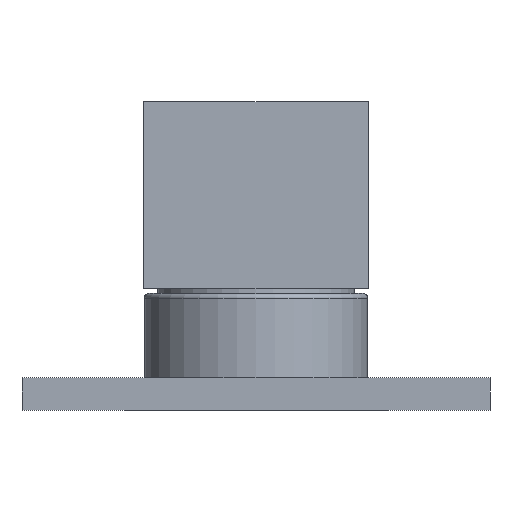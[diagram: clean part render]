
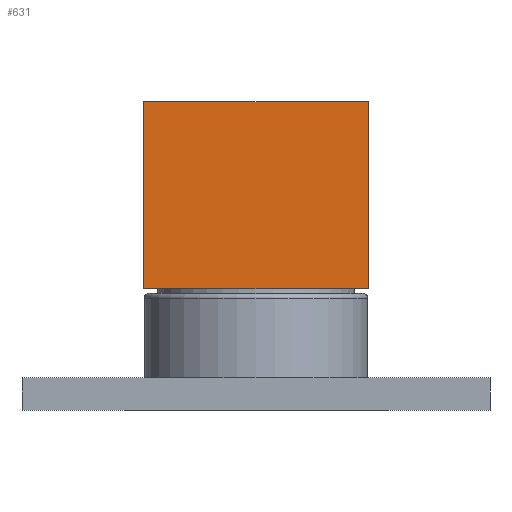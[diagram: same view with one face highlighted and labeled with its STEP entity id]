
A CAD part, front view. The second image highlights one B-rep face of the part: STEP entity #631.
In plain terms, the highlighted planar face has unit normal (0, -1, 0).
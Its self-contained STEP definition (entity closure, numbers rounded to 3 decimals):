
#444=DIRECTION('',(1.,0.,0.));
#445=VECTOR('',#444,48.);
#446=CARTESIAN_POINT('',(-24.,-24.,31.));
#447=LINE('',#446,#445);
#452=DIRECTION('',(0.,0.,1.));
#453=VECTOR('',#452,40.);
#454=CARTESIAN_POINT('',(24.,-24.,31.));
#455=LINE('',#454,#453);
#456=DIRECTION('',(0.,0.,1.));
#457=VECTOR('',#456,40.);
#458=CARTESIAN_POINT('',(-24.,-24.,31.));
#459=LINE('',#458,#457);
#468=DIRECTION('',(-1.,0.,0.));
#469=VECTOR('',#468,48.);
#470=CARTESIAN_POINT('',(24.,-24.,71.));
#471=LINE('',#470,#469);
#513=CARTESIAN_POINT('',(24.,-24.,31.));
#514=CARTESIAN_POINT('',(24.,-24.,71.));
#515=VERTEX_POINT('',#513);
#516=VERTEX_POINT('',#514);
#517=CARTESIAN_POINT('',(-24.,-24.,31.));
#518=CARTESIAN_POINT('',(-24.,-24.,71.));
#519=VERTEX_POINT('',#517);
#520=VERTEX_POINT('',#518);
#618=CARTESIAN_POINT('',(24.,-24.,31.));
#619=DIRECTION('',(0.,-1.,0.));
#620=DIRECTION('',(-1.,0.,0.));
#621=AXIS2_PLACEMENT_3D('',#618,#619,#620);
#622=PLANE('',#621);
#623=ORIENTED_EDGE('',*,*,#599,.F.);
#625=ORIENTED_EDGE('',*,*,#624,.T.);
#627=ORIENTED_EDGE('',*,*,#626,.F.);
#628=ORIENTED_EDGE('',*,*,#610,.F.);
#629=EDGE_LOOP('',(#623,#625,#627,#628));
#630=FACE_OUTER_BOUND('',#629,.F.);
#631=ADVANCED_FACE('',(#630),#622,.T.);
#599=EDGE_CURVE('',#519,#515,#447,.T.);
#610=EDGE_CURVE('',#515,#516,#455,.T.);
#624=EDGE_CURVE('',#519,#520,#459,.T.);
#626=EDGE_CURVE('',#516,#520,#471,.T.);
